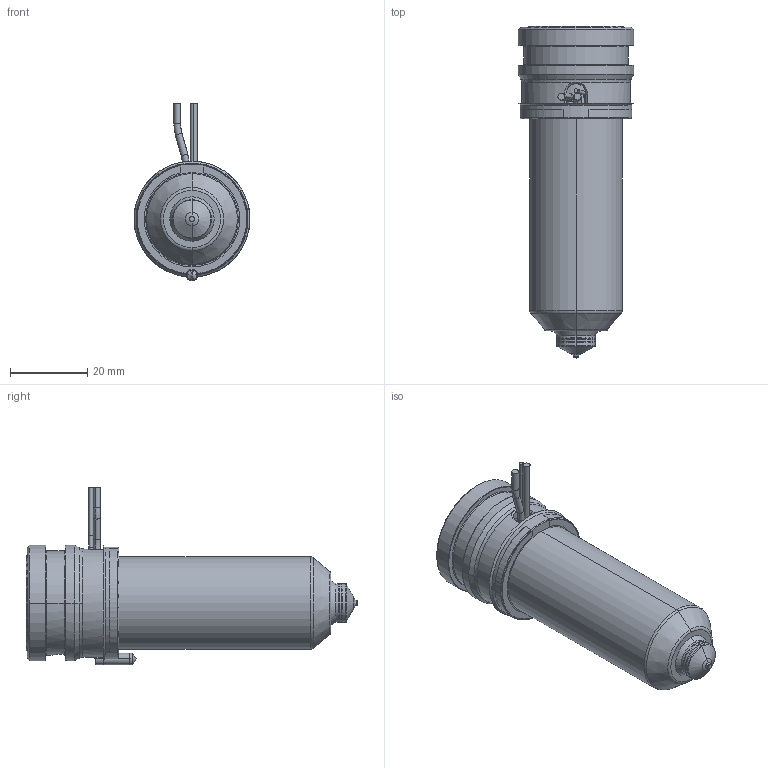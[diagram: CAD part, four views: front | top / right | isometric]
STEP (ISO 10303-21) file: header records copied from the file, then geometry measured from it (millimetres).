
FILE_DESCRIPTION((''),'2;1');
FILE_NAME('MPN-10-29-VSA10-066-A','2026-02-05T12:44:09',('UPTIO'),('Thermoplay S.p.A.'),'CREO PARAMETRIC BY PTC INC, 2023494','CREO PARAMETRIC BY PTC INC, 2023494','');
FILE_SCHEMA(('CONFIG_CONTROL_DESIGN','SHAPE_APPEARANCE_LAYERS_GROUPS'));
Length unit declared in the file: millimetre
Products named in the file (1): MPN-10-29-VSA10-066-A
Bounding box: 30 x 86 x 46 mm (x, y, z)
Volume: 27974 mm3; surface area: 27552.3 mm2
Topology: 2 solids, 3 shells, 556 faces, 1451 edges, 894 vertices
Faces by surface type: cylinder 184, plane 142, bspline 77, torus 70, cone 70, sphere 9, extrusion 4
Entity records: 29575 total; most frequent: CARTESIAN_POINT 13161, ORIENTED_EDGE 2890, DIRECTION 2691, EDGE_CURVE 1445, AXIS2_PLACEMENT_3D 1066, VERTEX_POINT 894, CIRCLE 590, EDGE_LOOP 585
